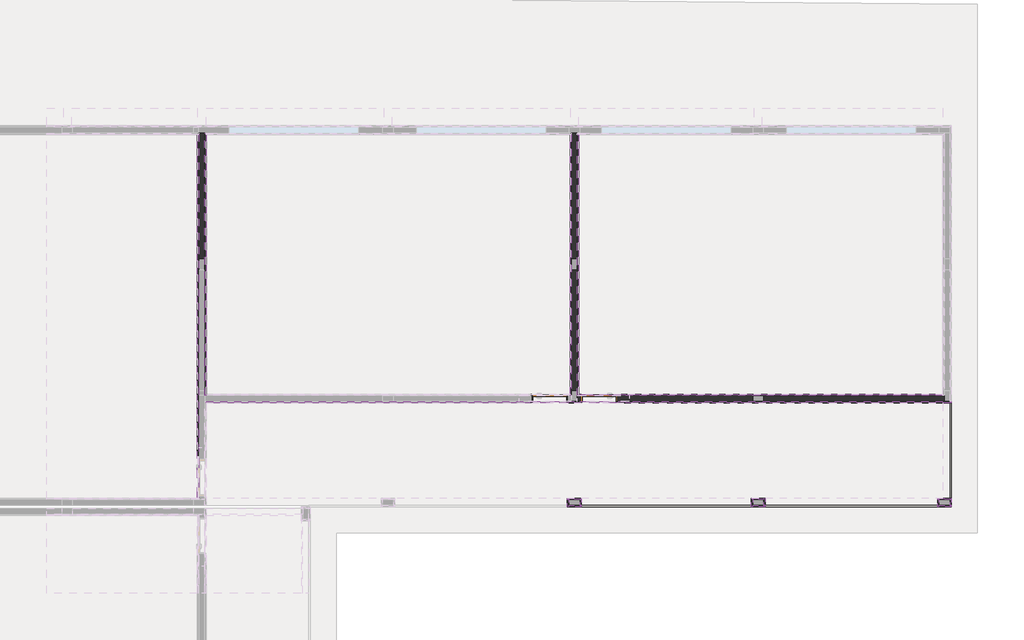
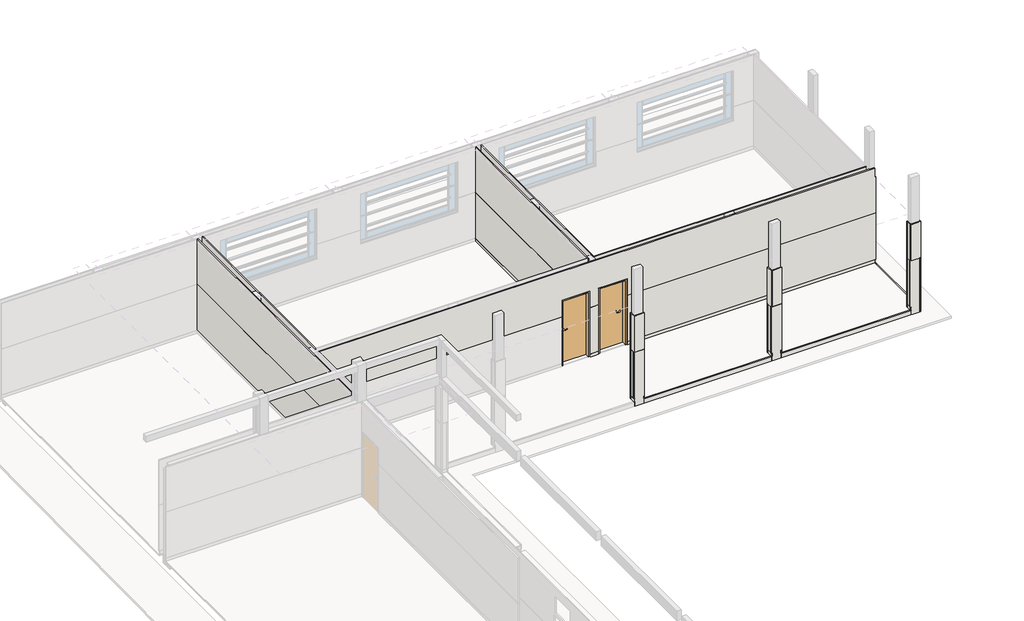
# One storey, part 6 of 11: 63 walls, 2 doors.
"""IFC4 building model written with IfcOpenShell, lengths in millimetres."""

from ifc_helpers import new_model, si_unit, frame, origin, place, context, project, spatial, polyline, outline, extrude, faceted_brep, transform, mapped, element, save
from components import door_80_x_210_cm_externa_36d8658d, door_80_x_210_cm_externa_7cd48cfd

model = new_model("IFC4")

# Units and contexts
model_context = context("Model", 3, world=origin())
ifc_project = project(units=[si_unit("LENGTHUNIT", "METRE", prefix="MILLI")], contexts=[model_context])

# Site, building, storey
site = spatial("IfcSite", under=ifc_project)
building = spatial("IfcBuilding", under=site)
storey = spatial("IfcBuildingStorey", under=building, Name="NÍVEL 1", Elevation=43.4413576)

# Doors
placement = place(None, origin())
door_80_x_210_cm_externa_shape = door_80_x_210_cm_externa_36d8658d(model_context)
element("IfcDoor", 1, ObjectType="POR_PM_GIRO_1FL : 80 x 210 cm Externa", at=placement, inside=storey, context=model_context, shape_type="MappedRepresentation", body=[
    mapped(door_80_x_210_cm_externa_shape, transform((17232.3574069, 10472.0719642, 63.4413576), x_axis=(-1.0, 0.0, 0.0), y_axis=(0.0, -1.0, 0.0), z_axis=(0.0, 0.0, 1.0))),
])
door_80_x_210_cm_externa_2_shape = door_80_x_210_cm_externa_7cd48cfd(model_context)
element("IfcDoor", 2, ObjectType="POR_PM_GIRO_1FL : 80 x 210 cm Externa", at=placement, inside=storey, context=model_context, shape_type="MappedRepresentation", body=[
    mapped(door_80_x_210_cm_externa_2_shape, transform((18372.3574069, 10472.0719642, 63.4413576), x_axis=(1.0, 0.0, 0.0), y_axis=(0.0, 1.0, 0.0), z_axis=(0.0, 0.0, 1.0))),
])

# Walls
element("IfcWall", 3, ObjectType="PARE.ALVE ALVENARIA DE BLOCOS CERÂMICOS FURADOS NA HORIZONTAL 14X9X19", at=placement, inside=storey, context=model_context, shape_type="Brep", body=[
    faceted_brep([(21912.3574069, 10402.0719642, 43.4413576), (21912.3574069, 10402.0719642, 2843.4413576), (17872.3574069, 10402.0719642, 2843.4413576), (17872.3574069, 10402.0719642, 2308.4413576), (19072.3574069, 10402.0719642, 2308.4413576), (19072.3574069, 10402.0719642, 2208.4413576), (17872.3574069, 10402.0719642, 2208.4413576), (17872.3574069, 10402.0719642, 43.4413576), (17952.3574069, 10402.0719642, 43.4413576), (17952.3574069, 10402.0719642, 2163.4413576), (18792.3574069, 10402.0719642, 2163.4413576), (18792.3574069, 10402.0719642, 43.4413576), (21912.3574069, 10542.0719642, 2843.4413576), (21912.3574069, 10542.0719642, 43.4413576), (18792.3574069, 10542.0719642, 43.4413576), (18792.3574069, 10542.0719642, 2163.4413576), (17952.3574069, 10542.0719642, 2163.4413576), (17952.3574069, 10542.0719642, 43.4413576), (17872.3574069, 10542.0719642, 43.4413576), (17872.3574069, 10542.0719642, 63.4413576), (17872.3574069, 10542.0719642, 163.4413576), (17872.3574069, 10542.0719642, 1663.4413576), (17872.3574069, 10542.0719642, 2208.4413576), (19072.3574069, 10542.0719642, 2208.4413576), (19072.3574069, 10542.0719642, 2308.4413576), (17872.3574069, 10542.0719642, 2308.4413576), (17872.3574069, 10542.0719642, 2843.4413576)], [[[0, 1, 2, 3, 4, 5, 6, 7, 8, 9, 10, 11]], [[12, 13, 14, 15, 16, 17, 18, 19, 20, 21, 22, 23, 24, 25, 26]], [[13, 0, 11, 14]], [[8, 7, 18, 17]], [[1, 0, 13, 12]], [[2, 1, 12, 26]], [[9, 8, 17, 16]], [[11, 10, 15, 14]], [[10, 9, 16, 15]], [[24, 4, 3, 25]], [[5, 23, 22, 6]], [[4, 24, 23, 5]], [[2, 26, 25, 3]], [[18, 7, 6, 22, 21, 20, 19]]]),
])
element("IfcWall", 4, ObjectType="PARE.ALVE ALVENARIA DE BLOCOS CERÂMICOS FURADOS NA HORIZONTAL 14X9X19", at=placement, inside=storey, context=model_context, shape_type="Brep", body=[
    faceted_brep([(22172.3574069, 10402.0719642, 43.4413576), (26332.3574069, 10402.0719642, 43.4413576), (26332.3574069, 10402.0719642, 2843.4413576), (22172.3574069, 10402.0719642, 2843.4413576), (22172.3574069, 10542.0719642, 43.4413576), (22172.3574069, 10542.0719642, 2843.4413576), (26332.3574069, 10542.0719642, 2843.4413576), (26332.3574069, 10542.0719642, 1663.4413576), (26332.3574069, 10542.0719642, 163.4413576), (26332.3574069, 10542.0719642, 63.4413576), (26332.3574069, 10542.0719642, 43.4413576)], [[[0, 1, 2, 3]], [[4, 5, 6, 7, 8, 9, 10]], [[1, 0, 4, 10]], [[3, 2, 6, 5]], [[0, 3, 5, 4]], [[1, 10, 9, 8, 7, 6, 2]]]),
])
element("IfcWall", 5, ObjectType="PARE.ALVE ALVENARIA DE BLOCOS CERÂMICOS FURADOS NA HORIZONTAL 14X9X19", at=placement, inside=storey, context=model_context, shape_type="Brep", body=[
    faceted_brep([(9272.3574069, 13702.0719642, 43.4413576), (9272.3574069, 16602.0719642, 43.4413576), (9272.3574069, 16602.0719642, 1003.4413576), (9272.3574069, 16602.0719642, 1203.4413576), (9272.3574069, 16602.0719642, 2843.4413576), (9272.3574069, 13702.0719642, 2843.4413576), (9132.3574069, 13702.0719642, 43.4413576), (9132.3574069, 13702.0719642, 2843.4413576), (9132.3574069, 16602.0719642, 2843.4413576), (9132.3574069, 16602.0719642, 163.4413576), (9132.3574069, 16602.0719642, 63.4413576), (9132.3574069, 16602.0719642, 43.4413576)], [[[0, 1, 2, 3, 4, 5]], [[6, 7, 8, 9, 10, 11]], [[1, 0, 6, 11]], [[5, 4, 8, 7]], [[0, 5, 7, 6]], [[4, 3, 2, 1, 11, 10, 9, 8]]]),
])
element("IfcWall", 6, ObjectType="PARE.ALVE ALVENARIA DE BLOCOS CERÂMICOS FURADOS NA HORIZONTAL 14X9X19", at=placement, inside=storey, context=model_context, shape_type="SweptSolid", body=[
    extrude(outline(polyline([(17872.3574069, 13442.0719642), (17872.3574069, 10662.0719642), (17732.3574069, 10662.0719642), (17732.3574069, 13442.0719642), (17872.3574069, 13442.0719642)])), frame((0.0, 0.0, 43.4413576), z_axis=(0.0, 0.0, 1.0), x_axis=(1.0, 0.0, 0.0)), (0.0, 0.0, 1.0), 2800.0),
])
element("IfcWall", 7, ObjectType="PARE.ALVE ALVENARIA DE BLOCOS CERÂMICOS FURADOS NA HORIZONTAL 14X9X19", at=placement, inside=storey, context=model_context, shape_type="Brep", body=[
    faceted_brep([(17872.3574069, 13702.0719642, 43.4413576), (17872.3574069, 16602.0719642, 43.4413576), (17872.3574069, 16602.0719642, 163.4413576), (17872.3574069, 16602.0719642, 1663.4413576), (17872.3574069, 16602.0719642, 2843.4413576), (17872.3574069, 13702.0719642, 2843.4413576), (17732.3574069, 13702.0719642, 43.4413576), (17732.3574069, 13702.0719642, 2843.4413576), (17732.3574069, 16602.0719642, 2843.4413576), (17732.3574069, 16602.0719642, 1663.4413576), (17732.3574069, 16602.0719642, 163.4413576), (17732.3574069, 16602.0719642, 63.4413576), (17732.3574069, 16602.0719642, 43.4413576)], [[[0, 1, 2, 3, 4, 5]], [[6, 7, 8, 9, 10, 11, 12]], [[1, 0, 6, 12]], [[5, 4, 8, 7]], [[0, 5, 7, 6]], [[1, 12, 11, 10, 9, 8, 4, 3, 2]]]),
])
element("IfcWall", 8, ObjectType="RODAPÉ EM GRANILITE", at=placement, inside=storey, context=model_context, shape_type="Brep", body=[
    faceted_brep([(17702.3574069, 16572.0719642, 63.4413576), (17702.3574069, 10572.0719642, 63.4413576), (17702.3574069, 10542.0719642, 63.4413576), (17702.3574069, 10542.0719642, 163.4413576), (17702.3574069, 10572.0719642, 163.4413576), (17702.3574069, 16572.0719642, 163.4413576), (17732.3574069, 16572.0719642, 63.4413576), (17732.3574069, 16572.0719642, 163.4413576), (17732.3574069, 10542.0719642, 163.4413576), (17732.3574069, 10542.0719642, 63.4413576)], [[[0, 1, 2, 3, 4, 5]], [[6, 7, 8, 9]], [[2, 1, 0, 6, 9]], [[5, 4, 3, 8, 7]], [[0, 5, 7, 6]], [[3, 2, 9, 8]]]),
])
element("IfcWall", 9, ObjectType="RODAPÉ EM GRANILITE", at=placement, inside=storey, context=model_context, shape_type="SweptSolid", body=[
    extrude(outline(polyline([(17682.3574069, 10572.0719642), (17702.3574069, 10572.0719642), (17702.3574069, 10542.0719642), (17682.3574069, 10542.0719642), (17682.3574069, 10572.0719642)])), frame((0.0, 0.0, 63.4413576), z_axis=(0.0, 0.0, 1.0), x_axis=(1.0, 0.0, 0.0)), (0.0, 0.0, 1.0), 100.0),
])
element("IfcWall", 10, ObjectType="RODAPÉ EM GRANILITE", at=placement, inside=storey, context=model_context, shape_type="SweptSolid", body=[
    extrude(outline(polyline([(9302.3574069, 16572.0719642), (9302.3574069, 10572.0719642), (9272.3574069, 10572.0719642), (9272.3574069, 16572.0719642), (9302.3574069, 16572.0719642)])), frame((0.0, 0.0, 63.4413576), z_axis=(0.0, 0.0, 1.0), x_axis=(1.0, 0.0, 0.0)), (0.0, 0.0, 1.0), 100.0),
])
element("IfcWall", 11, ObjectType="RODAPÉ EM GRANILITE", at=placement, inside=storey, context=model_context, shape_type="SweptSolid", body=[
    extrude(outline(polyline([(17927.3574069, 10372.0719642), (17677.3574069, 10372.0719642), (17677.3574069, 10402.0719642), (17927.3574069, 10402.0719642), (17927.3574069, 10372.0719642)])), frame((0.0, 0.0, 43.4413576), z_axis=(0.0, 0.0, 1.0), x_axis=(1.0, 0.0, 0.0)), (0.0, 0.0, 1.0), 100.0),
])
element("IfcWall", 12, ObjectType="RODAPÉ EM GRANILITE", at=placement, inside=storey, context=model_context, shape_type="Brep", body=[
    faceted_brep([(18817.3574069, 10372.0719642, 43.4413576), (26472.3574069, 10372.0719642, 43.4413576), (26472.3574069, 10372.0719642, 143.4413576), (18817.3574069, 10372.0719642, 143.4413576), (18817.3574069, 10402.0719642, 43.4413576), (18817.3574069, 10402.0719642, 143.4413576), (26472.3574069, 10402.0719642, 143.4413576), (26472.3574069, 10402.0719642, 43.4413576), (26472.3574069, 10387.0719642, 43.4413576)], [[[0, 1, 2, 3]], [[4, 5, 6, 7]], [[1, 0, 4, 7, 8]], [[3, 2, 6, 5]], [[0, 3, 5, 4]], [[2, 1, 8, 7, 6]]]),
])
element("IfcWall", 13, ObjectType="RODAPÉ EM GRANILITE", at=placement, inside=storey, context=model_context, shape_type="SweptSolid", body=[
    extrude(outline(polyline([(18822.3574069, 10572.0719642), (26302.3574069, 10572.0719642), (26302.3574069, 10542.0719642), (18822.3574069, 10542.0719642), (18822.3574069, 10572.0719642)])), frame((0.0, 0.0, 63.4413576), z_axis=(0.0, 0.0, 1.0), x_axis=(1.0, 0.0, 0.0)), (0.0, 0.0, 1.0), 100.0),
])
element("IfcWall", 14, ObjectType="RODAPÉ EM GRANILITE", at=placement, inside=storey, context=model_context, shape_type="SweptSolid", body=[
    extrude(outline(polyline([(17902.3574069, 10572.0719642), (17922.3574069, 10572.0719642), (17922.3574069, 10542.0719642), (17902.3574069, 10542.0719642), (17902.3574069, 10572.0719642)])), frame((0.0, 0.0, 63.4413576), z_axis=(0.0, 0.0, 1.0), x_axis=(1.0, 0.0, 0.0)), (0.0, 0.0, 1.0), 100.0),
])
element("IfcWall", 15, ObjectType="RODAPÉ EM GRANILITE", at=placement, inside=storey, context=model_context, shape_type="Brep", body=[
    faceted_brep([(17902.3574069, 10542.0719642, 63.4413576), (17902.3574069, 10572.0719642, 63.4413576), (17902.3574069, 16572.0719642, 63.4413576), (17902.3574069, 16572.0719642, 163.4413576), (17902.3574069, 10572.0719642, 163.4413576), (17902.3574069, 10542.0719642, 163.4413576), (17872.3574069, 10542.0719642, 63.4413576), (17872.3574069, 10542.0719642, 163.4413576), (17872.3574069, 16572.0719642, 163.4413576), (17872.3574069, 16572.0719642, 63.4413576)], [[[0, 1, 2, 3, 4, 5]], [[6, 7, 8, 9]], [[2, 1, 0, 6, 9]], [[5, 4, 3, 8, 7]], [[0, 5, 7, 6]], [[3, 2, 9, 8]]]),
])
element("IfcWall", 16, ObjectType="MASSA ÚNICA PARA BARRADO", at=placement, inside=storey, context=model_context, shape_type="SweptSolid", body=[
    extrude(outline(polyline([(9102.3574069, 9092.0719642), (9102.3574069, 16572.0719642), (9132.3574069, 16572.0719642), (9132.3574069, 9092.0719642), (9102.3574069, 9092.0719642)])), frame((0.0, 0.0, 163.4413576), z_axis=(0.0, 0.0, 1.0), x_axis=(1.0, 0.0, 0.0)), (0.0, 0.0, 1.0), 1500.0),
])
element("IfcWall", 17, ObjectType="MASSA ÚNICA PARA BARRADO", at=placement, inside=storey, context=model_context, shape_type="Brep", body=[
    faceted_brep([(17702.3574069, 16572.0719642, 163.4413576), (17702.3574069, 10572.0719642, 163.4413576), (17702.3574069, 10542.0719642, 163.4413576), (17702.3574069, 10542.0719642, 1663.4413576), (17702.3574069, 10572.0719642, 1663.4413576), (17702.3574069, 16572.0719642, 1663.4413576), (17732.3574069, 16572.0719642, 163.4413576), (17732.3574069, 16572.0719642, 1663.4413576), (17732.3574069, 10542.0719642, 1663.4413576), (17732.3574069, 10542.0719642, 163.4413576)], [[[0, 1, 2, 3, 4, 5]], [[6, 7, 8, 9]], [[2, 1, 0, 6, 9]], [[5, 4, 3, 8, 7]], [[0, 5, 7, 6]], [[3, 2, 9, 8]]]),
])
element("IfcWall", 18, ObjectType="MASSA ÚNICA PARA BARRADO", at=placement, inside=storey, context=model_context, shape_type="SweptSolid", body=[
    extrude(outline(polyline([(17682.3574069, 10572.0719642), (17702.3574069, 10572.0719642), (17702.3574069, 10542.0719642), (17682.3574069, 10542.0719642), (17682.3574069, 10572.0719642)])), frame((0.0, 0.0, 163.4413576), z_axis=(0.0, 0.0, 1.0), x_axis=(1.0, 0.0, 0.0)), (0.0, 0.0, 1.0), 1500.0),
])
element("IfcWall", 19, ObjectType="MASSA ÚNICA PARA BARRADO", at=placement, inside=storey, context=model_context, shape_type="SweptSolid", body=[
    extrude(outline(polyline([(9302.3574069, 16572.0719642), (9302.3574069, 10572.0719642), (9272.3574069, 10572.0719642), (9272.3574069, 16572.0719642), (9302.3574069, 16572.0719642)])), frame((0.0, 0.0, 163.4413576), z_axis=(0.0, 0.0, 1.0), x_axis=(1.0, 0.0, 0.0)), (0.0, 0.0, 1.0), 1500.0),
])
element("IfcWall", 20, ObjectType="MASSA ÚNICA PARA BARRADO", at=placement, inside=storey, context=model_context, shape_type="SweptSolid", body=[
    extrude(outline(polyline([(18822.3574069, 10572.0719642), (26302.3574069, 10572.0719642), (26302.3574069, 10542.0719642), (18822.3574069, 10542.0719642), (18822.3574069, 10572.0719642)])), frame((0.0, 0.0, 163.4413576), z_axis=(0.0, 0.0, 1.0), x_axis=(1.0, 0.0, 0.0)), (0.0, 0.0, 1.0), 1500.0),
])
element("IfcWall", 21, ObjectType="MASSA ÚNICA PARA BARRADO", at=placement, inside=storey, context=model_context, shape_type="Brep", body=[
    faceted_brep([(17922.3574069, 10572.0719642, 163.4413576), (17902.3574069, 10572.0719642, 163.4413576), (17902.3574069, 10572.0719642, 1663.4413576), (17921.9788521, 10572.0719642, 1663.4413576), (17922.3574069, 10572.0719642, 1663.4413576), (17922.3574069, 10542.0719642, 163.4413576), (17922.3574069, 10542.0719642, 1663.4413576), (17921.9788521, 10542.0719642, 1663.4413576), (17902.3574069, 10542.0719642, 1663.4413576), (17902.3574069, 10542.0719642, 163.4413576)], [[[0, 1, 2, 3, 4]], [[5, 6, 7, 8, 9]], [[1, 0, 5, 9]], [[4, 3, 2, 8, 7, 6]], [[0, 4, 6, 5]], [[2, 1, 9, 8]]]),
])
element("IfcWall", 22, ObjectType="MASSA ÚNICA PARA BARRADO", at=placement, inside=storey, context=model_context, shape_type="Brep", body=[
    faceted_brep([(17902.3574069, 10542.0719642, 163.4413576), (17902.3574069, 10572.0719642, 163.4413576), (17902.3574069, 16572.0719642, 163.4413576), (17902.3574069, 16572.0719642, 1663.4413576), (17902.3574069, 10572.0719642, 1663.4413576), (17902.3574069, 10542.0719642, 1663.4413576), (17872.3574069, 10542.0719642, 163.4413576), (17872.3574069, 10542.0719642, 1663.4413576), (17872.3574069, 16572.0719642, 1663.4413576), (17872.3574069, 16572.0719642, 163.4413576)], [[[0, 1, 2, 3, 4, 5]], [[6, 7, 8, 9]], [[2, 1, 0, 6, 9]], [[5, 4, 3, 8, 7]], [[0, 5, 7, 6]], [[3, 2, 9, 8]]]),
])
element("IfcWall", 23, ObjectType="MASSA ÚNICA PARA LATEX", at=placement, inside=storey, context=model_context, shape_type="SweptSolid", body=[
    extrude(outline(polyline([(8172.0719642, 1663.4413576), (8172.0719642, 3143.4413576), (16572.0719642, 3143.4413576), (16572.0719642, 1663.4413576), (9092.0719642, 1663.4413576), (9092.0719642, 2213.4413576), (8192.0719642, 2213.4413576), (8192.0719642, 1663.4413576), (8172.0719642, 1663.4413576)])), frame((9102.3574069, 0.0, 0.0), z_axis=(1.0, 0.0, 0.0), x_axis=(0.0, 1.0, 0.0)), (0.0, 0.0, 1.0), 30.0),
])
element("IfcWall", 24, ObjectType="MASSA ÚNICA PARA LATEX", at=placement, inside=storey, context=model_context, shape_type="Brep", body=[
    faceted_brep([(9302.3574069, 10542.0719642, 1663.4413576), (9302.3574069, 10572.0719642, 1663.4413576), (9302.3574069, 16572.0719642, 1663.4413576), (9302.3574069, 16602.0719642, 1663.4413576), (9302.3574069, 16602.0719642, 3143.4413576), (9302.3574069, 16572.0719642, 3143.4413576), (9302.3574069, 10572.0719642, 3143.4413576), (9302.3574069, 10542.0719642, 3143.4413576), (9272.3574069, 10542.0719642, 1663.4413576), (9272.3574069, 10542.0719642, 2843.4413576), (9272.3574069, 10542.0719642, 3143.4413576), (9272.3574069, 16602.0719642, 3143.4413576), (9272.3574069, 16602.0719642, 1663.4413576)], [[[0, 1, 2, 3, 4, 5, 6, 7]], [[8, 9, 10, 11, 12]], [[3, 2, 1, 0, 8, 12]], [[7, 6, 5, 4, 11, 10]], [[0, 7, 10, 9, 8]], [[4, 3, 12, 11]]]),
])
element("IfcWall", 25, ObjectType="MASSA ÚNICA PARA LATEX", at=placement, inside=storey, context=model_context, shape_type="Brep", body=[
    faceted_brep([(17702.3574069, 16572.0719642, 1663.4413576), (17702.3574069, 10572.0719642, 1663.4413576), (17702.3574069, 10542.0719642, 1663.4413576), (17702.3574069, 10542.0719642, 3143.4413576), (17702.3574069, 10572.0719642, 3143.4413576), (17702.3574069, 16572.0719642, 3143.4413576), (17732.3574069, 16572.0719642, 1663.4413576), (17732.3574069, 16572.0719642, 3143.4413576), (17732.3574069, 10542.0719642, 3143.4413576), (17732.3574069, 10542.0719642, 2843.4413576), (17732.3574069, 10542.0719642, 2308.4413576), (17732.3574069, 10542.0719642, 2208.4413576), (17732.3574069, 10542.0719642, 1663.4413576)], [[[0, 1, 2, 3, 4, 5]], [[6, 7, 8, 9, 10, 11, 12]], [[2, 1, 0, 6, 12]], [[5, 4, 3, 8, 7]], [[3, 2, 12, 11, 10, 9, 8]], [[0, 5, 7, 6]]]),
])
element("IfcWall", 26, ObjectType="MASSA ÚNICA PARA LATEX", at=placement, inside=storey, context=model_context, shape_type="SweptSolid", body=[
    extrude(outline(polyline([(3143.4413576, 17902.3574069), (1663.4413576, 17902.3574069), (1663.4413576, 17921.9788521), (2213.4413576, 17921.9788521), (2213.4413576, 18821.9788521), (1663.4413576, 18821.9788521), (1663.4413576, 26302.3574069), (3143.4413576, 26302.3574069), (3143.4413576, 17902.3574069)])), frame((0.0, 10542.0719642, 0.0), z_axis=(0.0, 1.0, 0.0), x_axis=(0.0, 0.0, 1.0)), (0.0, 0.0, 1.0), 30.0),
])
element("IfcWall", 27, ObjectType="MASSA ÚNICA PARA LATEX", at=placement, inside=storey, context=model_context, shape_type="Brep", body=[
    faceted_brep([(17902.3574069, 10542.0719642, 3143.4413576), (17902.3574069, 10542.0719642, 1663.4413576), (17902.3574069, 10572.0719642, 1663.4413576), (17902.3574069, 16572.0719642, 1663.4413576), (17902.3574069, 16572.0719642, 3143.4413576), (17902.3574069, 10572.0719642, 3143.4413576), (17872.3574069, 10542.0719642, 1663.4413576), (17872.3574069, 10542.0719642, 2208.4413576), (17872.3574069, 10542.0719642, 2308.4413576), (17872.3574069, 10542.0719642, 2843.4413576), (17872.3574069, 10542.0719642, 3143.4413576), (17872.3574069, 16572.0719642, 3143.4413576), (17872.3574069, 16572.0719642, 1663.4413576)], [[[0, 1, 2, 3, 4, 5]], [[6, 7, 8, 9, 10, 11, 12]], [[3, 2, 1, 6, 12]], [[0, 5, 4, 11, 10]], [[0, 10, 9, 8, 7, 6, 1]], [[4, 3, 12, 11]]]),
])
element("IfcWall", 28, ObjectType="MASSA ÚNICA PARA BARRADO", at=placement, inside=storey, context=model_context, shape_type="SweptSolid", body=[
    extrude(outline(polyline([(17927.3574069, 10372.0719642), (17677.3574069, 10372.0719642), (17677.3574069, 10402.0719642), (17927.3574069, 10402.0719642), (17927.3574069, 10372.0719642)])), frame((0.0, 0.0, 143.4413576), z_axis=(0.0, 0.0, 1.0), x_axis=(1.0, 0.0, 0.0)), (0.0, 0.0, 1.0), 1520.0),
])
element("IfcWall", 29, ObjectType="MASSA ÚNICA PARA BARRADO", at=placement, inside=storey, context=model_context, shape_type="Brep", body=[
    faceted_brep([(18817.3574069, 10372.0719642, 143.4413576), (26472.3574069, 10372.0719642, 143.4413576), (26502.3574069, 10372.0719642, 143.4413576), (26502.3574069, 10372.0719642, 1663.4413576), (18817.3574069, 10372.0719642, 1663.4413576), (18817.3574069, 10402.0719642, 143.4413576), (18817.3574069, 10402.0719642, 1663.4413576), (26472.3574069, 10402.0719642, 1663.4413576), (26502.3574069, 10402.0719642, 1663.4413576), (26502.3574069, 10402.0719642, 143.4413576), (26472.3574069, 10402.0719642, 143.4413576)], [[[0, 1, 2, 3, 4]], [[5, 6, 7, 8, 9, 10]], [[2, 1, 0, 5, 10, 9]], [[4, 3, 8, 7, 6]], [[0, 4, 6, 5]], [[3, 2, 9, 8]]]),
])
element("IfcWall", 30, ObjectType="RODAPÉ EM GRANILITE", at=placement, inside=storey, context=model_context, shape_type="Brep", body=[
    faceted_brep([(17962.3574069, 7972.0719642, 43.4413576), (17962.3574069, 8172.0719642, 43.4413576), (17962.3574069, 8172.0719642, 143.4413576), (17962.3574069, 8002.0719642, 143.4413576), (17962.3574069, 7972.0719642, 143.4413576), (17932.3574069, 7972.0719642, 43.4413576), (17932.3574069, 7972.0719642, 143.4413576), (17932.3574069, 8002.0719642, 143.4413576), (17932.3574069, 8142.0719642, 143.4413576), (17932.3574069, 8172.0719642, 143.4413576), (17932.3574069, 8172.0719642, 43.4413576), (17932.3574069, 8142.0719642, 43.4413576), (17932.3574069, 8002.0719642, 43.4413576), (17947.3574069, 7972.0719642, 43.4413576)], [[[0, 1, 2, 3, 4]], [[5, 6, 7, 8, 9, 10, 11, 12]], [[1, 0, 13, 5, 12, 11, 10]], [[4, 3, 2, 9, 8, 7, 6]], [[2, 1, 10, 9]], [[0, 4, 6, 5, 13]]]),
])
element("IfcWall", 31, ObjectType="RODAPÉ EM GRANILITE", at=placement, inside=storey, context=model_context, shape_type="Brep", body=[
    faceted_brep([(17932.3574069, 8172.0719642, 43.4413576), (17642.3574069, 8172.0719642, 43.4413576), (17642.3574069, 8172.0719642, 143.4413576), (17932.3574069, 8172.0719642, 143.4413576), (17932.3574069, 8142.0719642, 43.4413576), (17932.3574069, 8142.0719642, 143.4413576), (17672.3574069, 8142.0719642, 143.4413576), (17642.3574069, 8142.0719642, 143.4413576), (17642.3574069, 8142.0719642, 43.4413576), (17672.3574069, 8142.0719642, 43.4413576)], [[[0, 1, 2, 3]], [[4, 5, 6, 7, 8, 9]], [[1, 0, 4, 9, 8]], [[3, 2, 7, 6, 5]], [[0, 3, 5, 4]], [[2, 1, 8, 7]]]),
])
element("IfcWall", 32, ObjectType="RODAPÉ EM GRANILITE", at=placement, inside=storey, context=model_context, shape_type="Brep", body=[
    faceted_brep([(17642.3574069, 8142.0719642, 43.4413576), (17642.3574069, 7972.0719642, 43.4413576), (17642.3574069, 7972.0719642, 143.4413576), (17642.3574069, 8002.0719642, 143.4413576), (17642.3574069, 8142.0719642, 143.4413576), (17672.3574069, 8142.0719642, 43.4413576), (17672.3574069, 8142.0719642, 143.4413576), (17672.3574069, 8002.0719642, 143.4413576), (17672.3574069, 7972.0719642, 143.4413576), (17672.3574069, 7972.0719642, 43.4413576), (17672.3574069, 8002.0719642, 43.4413576), (17657.3574069, 7972.0719642, 43.4413576)], [[[0, 1, 2, 3, 4]], [[5, 6, 7, 8, 9, 10]], [[1, 0, 5, 10, 9, 11]], [[4, 3, 2, 8, 7, 6]], [[0, 4, 6, 5]], [[2, 1, 11, 9, 8]]]),
])
element("IfcWall", 33, ObjectType="RODAPÉ EM GRANILITE", at=placement, inside=storey, context=model_context, shape_type="Brep", body=[
    faceted_brep([(22202.3574069, 7972.0719642, 43.4413576), (22202.3574069, 8172.0719642, 43.4413576), (22202.3574069, 8172.0719642, 143.4413576), (22202.3574069, 8002.0719642, 143.4413576), (22202.3574069, 7972.0719642, 143.4413576), (22172.3574069, 7972.0719642, 43.4413576), (22172.3574069, 7972.0719642, 143.4413576), (22172.3574069, 8002.0719642, 143.4413576), (22172.3574069, 8142.0719642, 143.4413576), (22172.3574069, 8172.0719642, 143.4413576), (22172.3574069, 8172.0719642, 43.4413576), (22172.3574069, 8142.0719642, 43.4413576), (22172.3574069, 8002.0719642, 43.4413576), (22187.3574069, 7972.0719642, 43.4413576)], [[[0, 1, 2, 3, 4]], [[5, 6, 7, 8, 9, 10, 11, 12]], [[1, 0, 13, 5, 12, 11, 10]], [[4, 3, 2, 9, 8, 7, 6]], [[2, 1, 10, 9]], [[0, 4, 6, 5, 13]]]),
])
element("IfcWall", 34, ObjectType="RODAPÉ EM GRANILITE", at=placement, inside=storey, context=model_context, shape_type="Brep", body=[
    faceted_brep([(22172.3574069, 8172.0719642, 43.4413576), (21882.3574069, 8172.0719642, 43.4413576), (21882.3574069, 8172.0719642, 143.4413576), (22172.3574069, 8172.0719642, 143.4413576), (22172.3574069, 8142.0719642, 43.4413576), (22172.3574069, 8142.0719642, 143.4413576), (21912.3574069, 8142.0719642, 143.4413576), (21882.3574069, 8142.0719642, 143.4413576), (21882.3574069, 8142.0719642, 43.4413576), (21912.3574069, 8142.0719642, 43.4413576)], [[[0, 1, 2, 3]], [[4, 5, 6, 7, 8, 9]], [[1, 0, 4, 9, 8]], [[3, 2, 7, 6, 5]], [[0, 3, 5, 4]], [[2, 1, 8, 7]]]),
])
element("IfcWall", 35, ObjectType="RODAPÉ EM GRANILITE", at=placement, inside=storey, context=model_context, shape_type="Brep", body=[
    faceted_brep([(21882.3574069, 8142.0719642, 43.4413576), (21882.3574069, 7972.0719642, 43.4413576), (21882.3574069, 7972.0719642, 143.4413576), (21882.3574069, 8002.0719642, 143.4413576), (21882.3574069, 8142.0719642, 143.4413576), (21912.3574069, 8142.0719642, 43.4413576), (21912.3574069, 8142.0719642, 143.4413576), (21912.3574069, 8002.0719642, 143.4413576), (21912.3574069, 7972.0719642, 143.4413576), (21912.3574069, 7972.0719642, 43.4413576), (21912.3574069, 8002.0719642, 43.4413576), (21897.3574069, 7972.0719642, 43.4413576)], [[[0, 1, 2, 3, 4]], [[5, 6, 7, 8, 9, 10]], [[1, 0, 5, 10, 9, 11]], [[4, 3, 2, 8, 7, 6]], [[0, 4, 6, 5]], [[2, 1, 11, 9, 8]]]),
])
element("IfcWall", 36, ObjectType="RODAPÉ EM GRANILITE", at=placement, inside=storey, context=model_context, shape_type="Brep", body=[
    faceted_brep([(26472.3574069, 8172.0719642, 43.4413576), (26182.3574069, 8172.0719642, 43.4413576), (26182.3574069, 8172.0719642, 143.4413576), (26472.3574069, 8172.0719642, 143.4413576), (26472.3574069, 8142.0719642, 43.4413576), (26472.3574069, 8142.0719642, 143.4413576), (26212.3574069, 8142.0719642, 143.4413576), (26182.3574069, 8142.0719642, 143.4413576), (26182.3574069, 8142.0719642, 43.4413576), (26212.3574069, 8142.0719642, 43.4413576), (26472.3574069, 8157.0719642, 43.4413576)], [[[0, 1, 2, 3]], [[4, 5, 6, 7, 8, 9]], [[1, 0, 10, 4, 9, 8]], [[3, 2, 7, 6, 5]], [[2, 1, 8, 7]], [[0, 3, 5, 4, 10]]]),
])
element("IfcWall", 37, ObjectType="RODAPÉ EM GRANILITE", at=placement, inside=storey, context=model_context, shape_type="Brep", body=[
    faceted_brep([(26182.3574069, 8142.0719642, 43.4413576), (26182.3574069, 7972.0719642, 43.4413576), (26182.3574069, 7972.0719642, 143.4413576), (26182.3574069, 8002.0719642, 143.4413576), (26182.3574069, 8142.0719642, 143.4413576), (26212.3574069, 8142.0719642, 43.4413576), (26212.3574069, 8142.0719642, 143.4413576), (26212.3574069, 8002.0719642, 143.4413576), (26212.3574069, 7972.0719642, 143.4413576), (26212.3574069, 7972.0719642, 43.4413576), (26212.3574069, 8002.0719642, 43.4413576), (26197.3574069, 7972.0719642, 43.4413576)], [[[0, 1, 2, 3, 4]], [[5, 6, 7, 8, 9, 10]], [[1, 0, 5, 10, 9, 11]], [[4, 3, 2, 8, 7, 6]], [[0, 4, 6, 5]], [[2, 1, 11, 9, 8]]]),
])
element("IfcWall", 38, ObjectType="MASSA ÚNICA PARA BARRADO", at=placement, inside=storey, context=model_context, shape_type="Brep", body=[
    faceted_brep([(26502.3574069, 7972.0719642, -106.5586424), (26502.3574069, 8157.0719642, -106.5586424), (26502.3574069, 8157.0719642, 43.4413576), (26502.3574069, 8172.0719642, 43.4413576), (26502.3574069, 8172.0719642, 1663.4413576), (26502.3574069, 7972.0719642, 1663.4413576), (26472.3574069, 7972.0719642, -106.5586424), (26472.3574069, 7972.0719642, 1663.4413576), (26472.3574069, 8002.0719642, 1663.4413576), (26472.3574069, 8142.0719642, 1663.4413576), (26472.3574069, 8172.0719642, 1663.4413576), (26472.3574069, 8172.0719642, 143.4413576), (26472.3574069, 8172.0719642, 43.4413576), (26472.3574069, 8157.0719642, 43.4413576), (26472.3574069, 8157.0719642, -106.5586424), (26472.3574069, 8002.0719642, -106.5586424)], [[[0, 1, 2, 3, 4, 5]], [[6, 7, 8, 9, 10, 11, 12, 13, 14, 15]], [[1, 0, 6, 15, 14]], [[5, 4, 10, 9, 8, 7]], [[2, 1, 14, 13]], [[12, 3, 2, 13]], [[0, 5, 7, 6]], [[3, 12, 11, 10, 4]]]),
])
element("IfcWall", 39, ObjectType="MASSA ÚNICA PARA BARRADO", at=placement, inside=storey, context=model_context, shape_type="Brep", body=[
    faceted_brep([(26502.3574069, 8157.0719642, -106.5586424), (26502.3574069, 10387.0719642, -106.5586424), (26502.3574069, 10387.0719642, 43.4413576), (26502.3574069, 10372.0719642, 43.4413576), (26502.3574069, 8172.0719642, 43.4413576), (26502.3574069, 8157.0719642, 43.4413576), (26472.3574069, 8157.0719642, -106.5586424), (26472.3574069, 8157.0719642, 43.4413576), (26472.3574069, 8172.0719642, 43.4413576), (26472.3574069, 10372.0719642, 43.4413576), (26472.3574069, 10387.0719642, 43.4413576), (26472.3574069, 10387.0719642, -106.5586424)], [[[0, 1, 2, 3, 4, 5]], [[6, 7, 8, 9, 10, 11]], [[1, 0, 6, 11]], [[2, 1, 11, 10]], [[5, 4, 3, 2, 10, 9, 8, 7]], [[0, 5, 7, 6]]]),
])
element("IfcWall", 40, ObjectType="MASSA ÚNICA SARRAFEADA PARA ACRILICO", at=placement, inside=storey, context=model_context, shape_type="Brep", body=[
    faceted_brep([(26502.3574069, 10372.0719642, 1663.4413576), (26502.3574069, 10372.0719642, 2843.4413576), (26472.3574069, 10372.0719642, 2843.4413576), (26472.3574069, 10372.0719642, 3143.4413576), (9302.3574069, 10372.0719642, 3143.4413576), (9302.3574069, 10372.0719642, 1663.4413576), (16787.3605102, 10372.0719642, 1663.4413576), (16787.3605102, 10372.0719642, 2208.4413576), (17677.3605102, 10372.0719642, 2208.4413576), (17677.3605102, 10372.0719642, 1663.4413576), (17927.3605102, 10372.0719642, 1663.4413576), (17927.3605102, 10372.0719642, 2208.4413576), (18817.3605102, 10372.0719642, 2208.4413576), (18817.3605102, 10372.0719642, 1663.4413576), (26472.3574069, 10402.0719642, 3143.4413576), (26472.3574069, 10402.0719642, 2843.4413576), (26502.3574069, 10402.0719642, 2843.4413576), (26502.3574069, 10402.0719642, 1663.4413576), (26472.3574069, 10402.0719642, 1663.4413576), (18817.3605102, 10402.0719642, 1663.4413576), (18817.3605102, 10402.0719642, 2208.4413576), (17927.3605102, 10402.0719642, 2208.4413576), (17927.3605102, 10402.0719642, 1663.4413576), (17677.3605102, 10402.0719642, 1663.4413576), (17677.3605102, 10402.0719642, 2208.4413576), (16787.3605102, 10402.0719642, 2208.4413576), (16787.3605102, 10402.0719642, 1663.4413576), (9302.3574069, 10402.0719642, 1663.4413576), (9302.3574069, 10402.0719642, 3143.4413576)], [[[0, 1, 2, 3, 4, 5, 6, 7, 8, 9, 10, 11, 12, 13]], [[14, 15, 16, 17, 18, 19, 20, 21, 22, 23, 24, 25, 26, 27, 28]], [[17, 0, 13, 19, 18]], [[5, 27, 26, 6]], [[9, 23, 22, 10]], [[4, 3, 14, 28]], [[5, 4, 28, 27]], [[15, 2, 1, 16]], [[1, 0, 17, 16]], [[3, 2, 15, 14]], [[7, 25, 24, 8]], [[25, 7, 6, 26]], [[8, 24, 23, 9]], [[11, 21, 20, 12]], [[21, 11, 10, 22]], [[12, 20, 19, 13]]]),
])
element("IfcWall", 41, ObjectType="MASSA ÚNICA SARRAFEADA PARA ACRILICO", at=placement, inside=storey, context=model_context, shape_type="Brep", body=[
    faceted_brep([(17962.3574069, 8172.0719642, 1663.4413576), (17642.3574069, 8172.0719642, 1663.4413576), (17642.3574069, 8172.0719642, 2843.4413576), (17962.3574069, 8172.0719642, 2843.4413576), (17962.3574069, 8142.0719642, 1663.4413576), (17962.3574069, 8142.0719642, 2843.4413576), (17932.3574069, 8142.0719642, 2843.4413576), (17672.3574069, 8142.0719642, 2843.4413576), (17642.3574069, 8142.0719642, 2843.4413576), (17642.3574069, 8142.0719642, 1663.4413576), (17672.3574069, 8142.0719642, 1663.4413576), (17932.3574069, 8142.0719642, 1663.4413576)], [[[0, 1, 2, 3]], [[4, 5, 6, 7, 8, 9, 10, 11]], [[1, 0, 4, 11, 10, 9]], [[3, 2, 8, 7, 6, 5]], [[2, 1, 9, 8]], [[0, 3, 5, 4]]]),
])
element("IfcWall", 42, ObjectType="MASSA ÚNICA SARRAFEADA PARA ACRILICO", at=placement, inside=storey, context=model_context, shape_type="Brep", body=[
    faceted_brep([(17642.3574069, 8142.0719642, 1663.4413576), (17642.3574069, 7972.0719642, 1663.4413576), (17642.3574069, 7972.0719642, 2843.4413576), (17642.3574069, 8142.0719642, 2843.4413576), (17672.3574069, 8142.0719642, 1663.4413576), (17672.3574069, 8142.0719642, 2843.4413576), (17672.3574069, 8002.0719642, 2843.4413576), (17672.3574069, 7972.0719642, 2843.4413576), (17672.3574069, 7972.0719642, 1663.4413576), (17672.3574069, 8002.0719642, 1663.4413576)], [[[0, 1, 2, 3]], [[4, 5, 6, 7, 8, 9]], [[1, 0, 4, 9, 8]], [[3, 2, 7, 6, 5]], [[0, 3, 5, 4]], [[2, 1, 8, 7]]]),
])
element("IfcWall", 43, ObjectType="MASSA ÚNICA SARRAFEADA PARA ACRILICO", at=placement, inside=storey, context=model_context, shape_type="Brep", body=[
    faceted_brep([(17672.3574069, 7972.0719642, 1663.4413576), (17962.3574069, 7972.0719642, 1663.4413576), (17962.3574069, 7972.0719642, 2843.4413576), (17672.3574069, 7972.0719642, 2843.4413576), (17672.3574069, 8002.0719642, 1663.4413576), (17672.3574069, 8002.0719642, 2843.4413576), (17932.3574069, 8002.0719642, 2843.4413576), (17962.3574069, 8002.0719642, 2843.4413576), (17962.3574069, 8002.0719642, 1663.4413576), (17932.3574069, 8002.0719642, 1663.4413576)], [[[0, 1, 2, 3]], [[4, 5, 6, 7, 8, 9]], [[1, 0, 4, 9, 8]], [[3, 2, 7, 6, 5]], [[0, 3, 5, 4]], [[2, 1, 8, 7]]]),
])
element("IfcWall", 44, ObjectType="MASSA ÚNICA SARRAFEADA PARA ACRILICO", at=placement, inside=storey, context=model_context, shape_type="SweptSolid", body=[
    extrude(outline(polyline([(17962.3574069, 8142.0719642), (17962.3574069, 8002.0719642), (17932.3574069, 8002.0719642), (17932.3574069, 8142.0719642), (17962.3574069, 8142.0719642)])), frame((0.0, 0.0, 1663.4413576), z_axis=(0.0, 0.0, 1.0), x_axis=(1.0, 0.0, 0.0)), (0.0, 0.0, 1.0), 1180.0),
])
element("IfcWall", 45, ObjectType="MASSA ÚNICA SARRAFEADA PARA ACRILICO", at=placement, inside=storey, context=model_context, shape_type="Brep", body=[
    faceted_brep([(21882.3574069, 8172.0719642, 1663.4413576), (21882.3574069, 7972.0719642, 1663.4413576), (21882.3574069, 7972.0719642, 2843.4413576), (21882.3574069, 8172.0719642, 2843.4413576), (21912.3574069, 8172.0719642, 1663.4413576), (21912.3574069, 8172.0719642, 2843.4413576), (21912.3574069, 8142.0719642, 2843.4413576), (21912.3574069, 8002.0719642, 2843.4413576), (21912.3574069, 7972.0719642, 2843.4413576), (21912.3574069, 7972.0719642, 1663.4413576), (21912.3574069, 8002.0719642, 1663.4413576), (21912.3574069, 8142.0719642, 1663.4413576)], [[[0, 1, 2, 3]], [[4, 5, 6, 7, 8, 9, 10, 11]], [[1, 0, 4, 11, 10, 9]], [[3, 2, 8, 7, 6, 5]], [[2, 1, 9, 8]], [[0, 3, 5, 4]]]),
])
element("IfcWall", 46, ObjectType="MASSA ÚNICA SARRAFEADA PARA ACRILICO", at=placement, inside=storey, context=model_context, shape_type="Brep", body=[
    faceted_brep([(21912.3574069, 7972.0719642, 1663.4413576), (22202.3574069, 7972.0719642, 1663.4413576), (22202.3574069, 7972.0719642, 2843.4413576), (21912.3574069, 7972.0719642, 2843.4413576), (21912.3574069, 8002.0719642, 1663.4413576), (21912.3574069, 8002.0719642, 2843.4413576), (22172.3574069, 8002.0719642, 2843.4413576), (22202.3574069, 8002.0719642, 2843.4413576), (22202.3574069, 8002.0719642, 1663.4413576), (22172.3574069, 8002.0719642, 1663.4413576)], [[[0, 1, 2, 3]], [[4, 5, 6, 7, 8, 9]], [[1, 0, 4, 9, 8]], [[3, 2, 7, 6, 5]], [[0, 3, 5, 4]], [[2, 1, 8, 7]]]),
])
element("IfcWall", 47, ObjectType="MASSA ÚNICA SARRAFEADA PARA ACRILICO", at=placement, inside=storey, context=model_context, shape_type="Brep", body=[
    faceted_brep([(22202.3574069, 8002.0719642, 1663.4413576), (22202.3574069, 8172.0719642, 1663.4413576), (22202.3574069, 8172.0719642, 2843.4413576), (22202.3574069, 8002.0719642, 2843.4413576), (22172.3574069, 8002.0719642, 1663.4413576), (22172.3574069, 8002.0719642, 2843.4413576), (22172.3574069, 8142.0719642, 2843.4413576), (22172.3574069, 8172.0719642, 2843.4413576), (22172.3574069, 8172.0719642, 1663.4413576), (22172.3574069, 8142.0719642, 1663.4413576)], [[[0, 1, 2, 3]], [[4, 5, 6, 7, 8, 9]], [[1, 0, 4, 9, 8]], [[3, 2, 7, 6, 5]], [[0, 3, 5, 4]], [[2, 1, 8, 7]]]),
])
element("IfcWall", 48, ObjectType="MASSA ÚNICA SARRAFEADA PARA ACRILICO", at=placement, inside=storey, context=model_context, shape_type="SweptSolid", body=[
    extrude(outline(polyline([(21912.3574069, 8172.0719642), (22172.3574069, 8172.0719642), (22172.3574069, 8142.0719642), (21912.3574069, 8142.0719642), (21912.3574069, 8172.0719642)])), frame((0.0, 0.0, 1663.4413576), z_axis=(0.0, 0.0, 1.0), x_axis=(1.0, 0.0, 0.0)), (0.0, 0.0, 1.0), 1180.0),
])
element("IfcWall", 49, ObjectType="MASSA ÚNICA SARRAFEADA PARA ACRILICO", at=placement, inside=storey, context=model_context, shape_type="Brep", body=[
    faceted_brep([(26502.3574069, 8172.0719642, 1663.4413576), (26182.3574069, 8172.0719642, 1663.4413576), (26182.3574069, 8172.0719642, 2843.4413576), (26502.3574069, 8172.0719642, 2843.4413576), (26502.3574069, 8142.0719642, 1663.4413576), (26502.3574069, 8142.0719642, 2843.4413576), (26472.3574069, 8142.0719642, 2843.4413576), (26212.3574069, 8142.0719642, 2843.4413576), (26182.3574069, 8142.0719642, 2843.4413576), (26182.3574069, 8142.0719642, 1663.4413576), (26212.3574069, 8142.0719642, 1663.4413576), (26472.3574069, 8142.0719642, 1663.4413576)], [[[0, 1, 2, 3]], [[4, 5, 6, 7, 8, 9, 10, 11]], [[1, 0, 4, 11, 10, 9]], [[3, 2, 8, 7, 6, 5]], [[2, 1, 9, 8]], [[0, 3, 5, 4]]]),
])
element("IfcWall", 50, ObjectType="MASSA ÚNICA SARRAFEADA PARA ACRILICO", at=placement, inside=storey, context=model_context, shape_type="Brep", body=[
    faceted_brep([(26182.3574069, 8142.0719642, 1663.4413576), (26182.3574069, 7972.0719642, 1663.4413576), (26182.3574069, 7972.0719642, 2843.4413576), (26182.3574069, 8142.0719642, 2843.4413576), (26212.3574069, 8142.0719642, 1663.4413576), (26212.3574069, 8142.0719642, 2843.4413576), (26212.3574069, 8002.0719642, 2843.4413576), (26212.3574069, 7972.0719642, 2843.4413576), (26212.3574069, 7972.0719642, 1663.4413576), (26212.3574069, 8002.0719642, 1663.4413576)], [[[0, 1, 2, 3]], [[4, 5, 6, 7, 8, 9]], [[1, 0, 4, 9, 8]], [[3, 2, 7, 6, 5]], [[0, 3, 5, 4]], [[2, 1, 8, 7]]]),
])
element("IfcWall", 51, ObjectType="MASSA ÚNICA SARRAFEADA PARA ACRILICO", at=placement, inside=storey, context=model_context, shape_type="Brep", body=[
    faceted_brep([(26212.3574069, 7972.0719642, 1663.4413576), (26502.3574069, 7972.0719642, 1663.4413576), (26502.3574069, 7972.0719642, 2843.4413576), (26212.3574069, 7972.0719642, 2843.4413576), (26212.3574069, 8002.0719642, 1663.4413576), (26212.3574069, 8002.0719642, 2843.4413576), (26472.3574069, 8002.0719642, 2843.4413576), (26502.3574069, 8002.0719642, 2843.4413576), (26502.3574069, 8002.0719642, 1663.4413576), (26472.3574069, 8002.0719642, 1663.4413576)], [[[0, 1, 2, 3]], [[4, 5, 6, 7, 8, 9]], [[1, 0, 4, 9, 8]], [[3, 2, 7, 6, 5]], [[0, 3, 5, 4]], [[2, 1, 8, 7]]]),
])
element("IfcWall", 52, ObjectType="MASSA ÚNICA SARRAFEADA PARA ACRILICO", at=placement, inside=storey, context=model_context, shape_type="SweptSolid", body=[
    extrude(outline(polyline([(26502.3574069, 8142.0719642), (26502.3574069, 8002.0719642), (26472.3574069, 8002.0719642), (26472.3574069, 8142.0719642), (26502.3574069, 8142.0719642)])), frame((0.0, 0.0, 1663.4413576), z_axis=(0.0, 0.0, 1.0), x_axis=(1.0, 0.0, 0.0)), (0.0, 0.0, 1.0), 1180.0),
])
element("IfcWall", 53, ObjectType="MASSA ÚNICA PARA BARRADO", at=placement, inside=storey, context=model_context, shape_type="Brep", body=[
    faceted_brep([(17947.3574069, 7972.0719642, -106.5586424), (21897.3574069, 7972.0719642, -106.5586424), (21897.3574069, 7972.0719642, 43.4413576), (21882.3574069, 7972.0719642, 43.4413576), (17962.3574069, 7972.0719642, 43.4413576), (17947.3574069, 7972.0719642, 43.4413576), (17947.3574069, 8002.0719642, -106.5586424), (17947.3574069, 8002.0719642, 43.4413576), (21897.3574069, 8002.0719642, 43.4413576), (21897.3574069, 8002.0719642, -106.5586424)], [[[0, 1, 2, 3, 4, 5]], [[6, 7, 8, 9]], [[1, 0, 6, 9]], [[2, 1, 9, 8]], [[5, 4, 3, 2, 8, 7]], [[0, 5, 7, 6]]]),
])
element("IfcWall", 54, ObjectType="MASSA ÚNICA PARA BARRADO", at=placement, inside=storey, context=model_context, shape_type="Brep", body=[
    faceted_brep([(22187.3574069, 7972.0719642, -106.5586424), (26197.3574069, 7972.0719642, -106.5586424), (26197.3574069, 7972.0719642, 43.4413576), (26182.3574069, 7972.0719642, 43.4413576), (22202.3574069, 7972.0719642, 43.4413576), (22187.3574069, 7972.0719642, 43.4413576), (22187.3574069, 8002.0719642, -106.5586424), (22187.3574069, 8002.0719642, 43.4413576), (26197.3574069, 8002.0719642, 43.4413576), (26197.3574069, 8002.0719642, -106.5586424)], [[[0, 1, 2, 3, 4, 5]], [[6, 7, 8, 9]], [[1, 0, 6, 9]], [[2, 1, 9, 8]], [[5, 4, 3, 2, 8, 7]], [[0, 5, 7, 6]]]),
])
element("IfcWall", 55, ObjectType="MASSA ÚNICA PARA BARRADO", at=placement, inside=storey, context=model_context, shape_type="Brep", body=[
    faceted_brep([(17657.3574069, 7972.0719642, -106.5586424), (17947.3574069, 7972.0719642, -106.5586424), (17947.3574069, 7972.0719642, 43.4413576), (17932.3574069, 7972.0719642, 43.4413576), (17932.3574069, 7972.0719642, 143.4413576), (17962.3574069, 7972.0719642, 143.4413576), (17962.3574069, 7972.0719642, 1663.4413576), (17642.3574069, 7972.0719642, 1663.4413576), (17642.3574069, 7972.0719642, 143.4413576), (17672.3574069, 7972.0719642, 143.4413576), (17672.3574069, 7972.0719642, 43.4413576), (17657.3574069, 7972.0719642, 43.4413576), (17657.3574069, 8002.0719642, -106.5586424), (17657.3574069, 8002.0719642, 43.4413576), (17672.3574069, 8002.0719642, 43.4413576), (17672.3574069, 8002.0719642, 143.4413576), (17642.3574069, 8002.0719642, 143.4413576), (17642.3574069, 8002.0719642, 1663.4413576), (17672.3574069, 8002.0719642, 1663.4413576), (17932.3574069, 8002.0719642, 1663.4413576), (17962.3574069, 8002.0719642, 1663.4413576), (17962.3574069, 8002.0719642, 143.4413576), (17932.3574069, 8002.0719642, 143.4413576), (17932.3574069, 8002.0719642, 43.4413576), (17947.3574069, 8002.0719642, 43.4413576), (17947.3574069, 8002.0719642, -106.5586424)], [[[0, 1, 2, 3, 4, 5, 6, 7, 8, 9, 10, 11]], [[12, 13, 14, 15, 16, 17, 18, 19, 20, 21, 22, 23, 24, 25]], [[1, 0, 12, 25]], [[7, 6, 20, 19, 18, 17]], [[0, 11, 13, 12]], [[10, 14, 13, 11]], [[2, 1, 25, 24]], [[23, 3, 2, 24]], [[21, 5, 4, 22]], [[4, 3, 23, 22]], [[6, 5, 21, 20]], [[8, 16, 15, 9]], [[10, 9, 15, 14]], [[8, 7, 17, 16]]]),
])
element("IfcWall", 56, ObjectType="MASSA ÚNICA PARA BARRADO", at=placement, inside=storey, context=model_context, shape_type="Brep", body=[
    faceted_brep([(21897.3574069, 7972.0719642, -106.5586424), (22187.3574069, 7972.0719642, -106.5586424), (22187.3574069, 7972.0719642, 43.4413576), (22172.3574069, 7972.0719642, 43.4413576), (22172.3574069, 7972.0719642, 143.4413576), (22202.3574069, 7972.0719642, 143.4413576), (22202.3574069, 7972.0719642, 1663.4413576), (21882.3574069, 7972.0719642, 1663.4413576), (21882.3574069, 7972.0719642, 143.4413576), (21912.3574069, 7972.0719642, 143.4413576), (21912.3574069, 7972.0719642, 43.4413576), (21897.3574069, 7972.0719642, 43.4413576), (21897.3574069, 8002.0719642, -106.5586424), (21897.3574069, 8002.0719642, 43.4413576), (21912.3574069, 8002.0719642, 43.4413576), (21912.3574069, 8002.0719642, 143.4413576), (21882.3574069, 8002.0719642, 143.4413576), (21882.3574069, 8002.0719642, 1663.4413576), (21912.3574069, 8002.0719642, 1663.4413576), (22172.3574069, 8002.0719642, 1663.4413576), (22202.3574069, 8002.0719642, 1663.4413576), (22202.3574069, 8002.0719642, 143.4413576), (22172.3574069, 8002.0719642, 143.4413576), (22172.3574069, 8002.0719642, 43.4413576), (22187.3574069, 8002.0719642, 43.4413576), (22187.3574069, 8002.0719642, -106.5586424)], [[[0, 1, 2, 3, 4, 5, 6, 7, 8, 9, 10, 11]], [[12, 13, 14, 15, 16, 17, 18, 19, 20, 21, 22, 23, 24, 25]], [[1, 0, 12, 25]], [[7, 6, 20, 19, 18, 17]], [[0, 11, 13, 12]], [[10, 14, 13, 11]], [[2, 1, 25, 24]], [[23, 3, 2, 24]], [[21, 5, 4, 22]], [[4, 3, 23, 22]], [[6, 5, 21, 20]], [[8, 16, 15, 9]], [[10, 9, 15, 14]], [[8, 7, 17, 16]]]),
])
element("IfcWall", 57, ObjectType="MASSA ÚNICA PARA BARRADO", at=placement, inside=storey, context=model_context, shape_type="Brep", body=[
    faceted_brep([(26197.3574069, 7972.0719642, -106.5586424), (26472.3574069, 7972.0719642, -106.5586424), (26472.3574069, 7972.0719642, 1663.4413576), (26182.3574069, 7972.0719642, 1663.4413576), (26182.3574069, 7972.0719642, 143.4413576), (26212.3574069, 7972.0719642, 143.4413576), (26212.3574069, 7972.0719642, 43.4413576), (26197.3574069, 7972.0719642, 43.4413576), (26197.3574069, 8002.0719642, -106.5586424), (26197.3574069, 8002.0719642, 43.4413576), (26212.3574069, 8002.0719642, 43.4413576), (26212.3574069, 8002.0719642, 143.4413576), (26182.3574069, 8002.0719642, 143.4413576), (26182.3574069, 8002.0719642, 1663.4413576), (26212.3574069, 8002.0719642, 1663.4413576), (26472.3574069, 8002.0719642, 1663.4413576), (26472.3574069, 8002.0719642, -106.5586424)], [[[0, 1, 2, 3, 4, 5, 6, 7]], [[8, 9, 10, 11, 12, 13, 14, 15, 16]], [[1, 0, 8, 16]], [[3, 2, 15, 14, 13]], [[0, 7, 9, 8]], [[6, 10, 9, 7]], [[2, 1, 16, 15]], [[4, 12, 11, 5]], [[6, 5, 11, 10]], [[4, 3, 13, 12]]]),
])
element("IfcWall", 58, ObjectType="MASSA ÚNICA PARA BARRADO", at=placement, inside=storey, context=model_context, shape_type="Brep", body=[
    faceted_brep([(17962.3574069, 8002.0719642, 143.4413576), (17962.3574069, 8172.0719642, 143.4413576), (17962.3574069, 8172.0719642, 1663.4413576), (17962.3574069, 8002.0719642, 1663.4413576), (17932.3574069, 8002.0719642, 143.4413576), (17932.3574069, 8002.0719642, 1663.4413576), (17932.3574069, 8142.0719642, 1663.4413576), (17932.3574069, 8172.0719642, 1663.4413576), (17932.3574069, 8172.0719642, 143.4413576), (17932.3574069, 8142.0719642, 143.4413576)], [[[0, 1, 2, 3]], [[4, 5, 6, 7, 8, 9]], [[1, 0, 4, 9, 8]], [[3, 2, 7, 6, 5]], [[0, 3, 5, 4]], [[2, 1, 8, 7]]]),
])
element("IfcWall", 59, ObjectType="MASSA ÚNICA PARA BARRADO", at=placement, inside=storey, context=model_context, shape_type="Brep", body=[
    faceted_brep([(17932.3574069, 8172.0719642, 143.4413576), (17642.3574069, 8172.0719642, 143.4413576), (17642.3574069, 8172.0719642, 1663.4413576), (17932.3574069, 8172.0719642, 1663.4413576), (17932.3574069, 8142.0719642, 143.4413576), (17932.3574069, 8142.0719642, 1663.4413576), (17672.3574069, 8142.0719642, 1663.4413576), (17642.3574069, 8142.0719642, 1663.4413576), (17642.3574069, 8142.0719642, 143.4413576), (17672.3574069, 8142.0719642, 143.4413576)], [[[0, 1, 2, 3]], [[4, 5, 6, 7, 8, 9]], [[1, 0, 4, 9, 8]], [[3, 2, 7, 6, 5]], [[0, 3, 5, 4]], [[2, 1, 8, 7]]]),
])
element("IfcWall", 60, ObjectType="MASSA ÚNICA PARA BARRADO", at=placement, inside=storey, context=model_context, shape_type="SweptSolid", body=[
    extrude(outline(polyline([(17642.3574069, 8002.0719642), (17642.3574069, 8142.0719642), (17672.3574069, 8142.0719642), (17672.3574069, 8002.0719642), (17642.3574069, 8002.0719642)])), frame((0.0, 0.0, 143.4413576), z_axis=(0.0, 0.0, 1.0), x_axis=(1.0, 0.0, 0.0)), (0.0, 0.0, 1.0), 1520.0),
])
element("IfcWall", 61, ObjectType="MASSA ÚNICA PARA BARRADO", at=placement, inside=storey, context=model_context, shape_type="Brep", body=[
    faceted_brep([(22202.3574069, 8002.0719642, 143.4413576), (22202.3574069, 8172.0719642, 143.4413576), (22202.3574069, 8172.0719642, 1663.4413576), (22202.3574069, 8002.0719642, 1663.4413576), (22172.3574069, 8002.0719642, 143.4413576), (22172.3574069, 8002.0719642, 1663.4413576), (22172.3574069, 8142.0719642, 1663.4413576), (22172.3574069, 8172.0719642, 1663.4413576), (22172.3574069, 8172.0719642, 143.4413576), (22172.3574069, 8142.0719642, 143.4413576)], [[[0, 1, 2, 3]], [[4, 5, 6, 7, 8, 9]], [[1, 0, 4, 9, 8]], [[3, 2, 7, 6, 5]], [[0, 3, 5, 4]], [[2, 1, 8, 7]]]),
])
element("IfcWall", 62, ObjectType="MASSA ÚNICA PARA BARRADO", at=placement, inside=storey, context=model_context, shape_type="Brep", body=[
    faceted_brep([(22172.3574069, 8172.0719642, 143.4413576), (21882.3574069, 8172.0719642, 143.4413576), (21882.3574069, 8172.0719642, 1663.4413576), (22172.3574069, 8172.0719642, 1663.4413576), (22172.3574069, 8142.0719642, 143.4413576), (22172.3574069, 8142.0719642, 1663.4413576), (21912.3574069, 8142.0719642, 1663.4413576), (21882.3574069, 8142.0719642, 1663.4413576), (21882.3574069, 8142.0719642, 143.4413576), (21912.3574069, 8142.0719642, 143.4413576)], [[[0, 1, 2, 3]], [[4, 5, 6, 7, 8, 9]], [[1, 0, 4, 9, 8]], [[3, 2, 7, 6, 5]], [[0, 3, 5, 4]], [[2, 1, 8, 7]]]),
])
element("IfcWall", 63, ObjectType="MASSA ÚNICA PARA BARRADO", at=placement, inside=storey, context=model_context, shape_type="SweptSolid", body=[
    extrude(outline(polyline([(21882.3574069, 8002.0719642), (21882.3574069, 8142.0719642), (21912.3574069, 8142.0719642), (21912.3574069, 8002.0719642), (21882.3574069, 8002.0719642)])), frame((0.0, 0.0, 143.4413576), z_axis=(0.0, 0.0, 1.0), x_axis=(1.0, 0.0, 0.0)), (0.0, 0.0, 1.0), 1520.0),
])
element("IfcWall", 64, ObjectType="MASSA ÚNICA PARA BARRADO", at=placement, inside=storey, context=model_context, shape_type="Brep", body=[
    faceted_brep([(26472.3574069, 8172.0719642, 143.4413576), (26182.3574069, 8172.0719642, 143.4413576), (26182.3574069, 8172.0719642, 1663.4413576), (26472.3574069, 8172.0719642, 1663.4413576), (26472.3574069, 8142.0719642, 143.4413576), (26472.3574069, 8142.0719642, 1663.4413576), (26212.3574069, 8142.0719642, 1663.4413576), (26182.3574069, 8142.0719642, 1663.4413576), (26182.3574069, 8142.0719642, 143.4413576), (26212.3574069, 8142.0719642, 143.4413576)], [[[0, 1, 2, 3]], [[4, 5, 6, 7, 8, 9]], [[1, 0, 4, 9, 8]], [[3, 2, 7, 6, 5]], [[0, 3, 5, 4]], [[2, 1, 8, 7]]]),
])
element("IfcWall", 65, ObjectType="MASSA ÚNICA PARA BARRADO", at=placement, inside=storey, context=model_context, shape_type="SweptSolid", body=[
    extrude(outline(polyline([(26182.3574069, 8002.0719642), (26182.3574069, 8142.0719642), (26212.3574069, 8142.0719642), (26212.3574069, 8002.0719642), (26182.3574069, 8002.0719642)])), frame((0.0, 0.0, 143.4413576), z_axis=(0.0, 0.0, 1.0), x_axis=(1.0, 0.0, 0.0)), (0.0, 0.0, 1.0), 1520.0),
])

save(model, "model.ifc")
